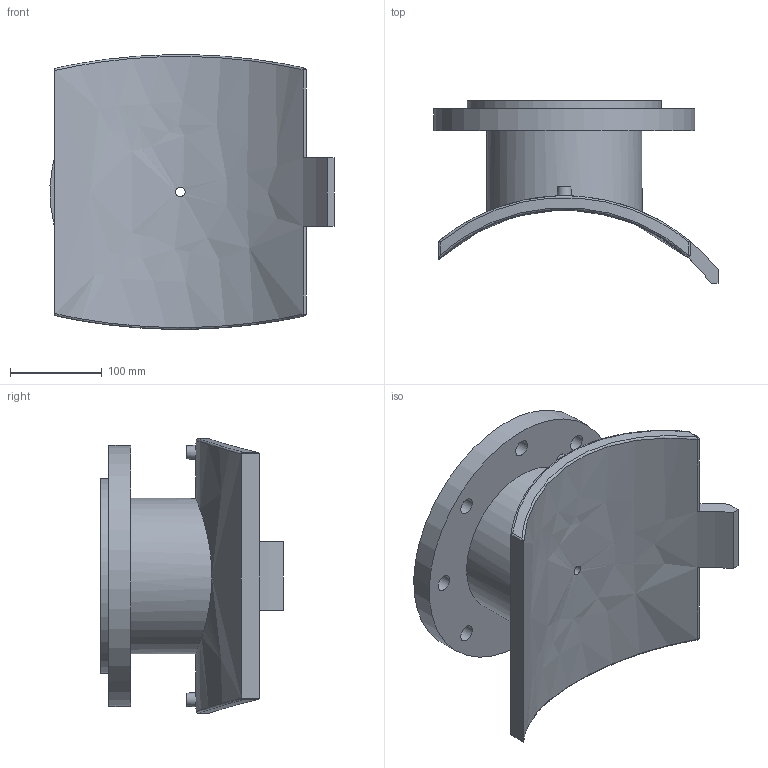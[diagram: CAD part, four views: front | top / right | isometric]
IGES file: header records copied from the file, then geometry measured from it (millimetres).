
Global section: file name: 495904400150T; native system: Autodesk Inventor 2019; preprocessor: unknown; author: KIM; date: 20240403.210022; units: millimetre
Bounding box: 310.09 x 199.52 x 299.64 mm (x, y, z)
Volume: 2959813.2 mm3; surface area: 419296.7 mm2
Topology: 1 solids, 1 shells, 58 faces, 151 edges, 118 vertices
Faces by surface type: bspline 58
